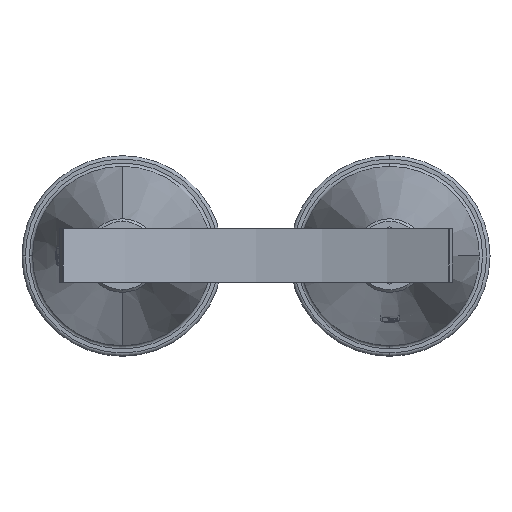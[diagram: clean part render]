
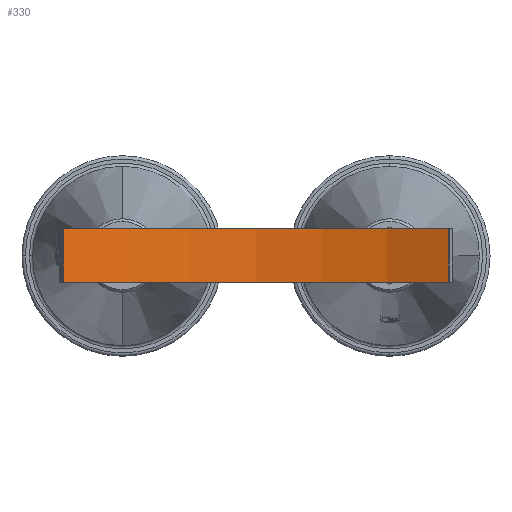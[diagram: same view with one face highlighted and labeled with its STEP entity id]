
A CAD part, top view. The second image highlights one B-rep face of the part: STEP entity #330.
In plain terms, the highlighted cylindrical face has radius 656 mm (diameter 1312 mm), a partial arc.
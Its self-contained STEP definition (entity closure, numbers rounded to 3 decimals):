
#330=ADVANCED_FACE('',(#814),#815,.F.);
#814=FACE_OUTER_BOUND('',#1532,.T.);
#815=CYLINDRICAL_SURFACE('',#1533,656.0);
#1532=EDGE_LOOP('',(#2205,#2206,#2207,#2208));
#1533=AXIS2_PLACEMENT_3D('',#2209,#2210,#2211);
#2205=ORIENTED_EDGE('',*,*,#4036,.T.);
#2206=ORIENTED_EDGE('',*,*,#4026,.F.);
#2207=ORIENTED_EDGE('',*,*,#4037,.T.);
#2208=ORIENTED_EDGE('',*,*,#4033,.T.);
#2209=CARTESIAN_POINT('',(421.579,585.776,844.559));
#2210=DIRECTION('',(0.,-1.0,0.));
#2211=DIRECTION('',(1.0,0.,0.));
#4026=EDGE_CURVE('',#4745,#4740,#4747,.T.);
#4033=EDGE_CURVE('',#4757,#4755,#4758,.T.);
#4036=EDGE_CURVE('',#4755,#4740,#4761,.T.);
#4037=EDGE_CURVE('',#4745,#4757,#4762,.T.);
#4740=VERTEX_POINT('',#5779);
#4745=VERTEX_POINT('',#5786);
#4747=LINE('',#5789,#5790);
#4755=VERTEX_POINT('',#5799);
#4757=VERTEX_POINT('',#5802);
#4758=LINE('',#5803,#5804);
#4761=CIRCLE('',#5808,656.0);
#4762=CIRCLE('',#5809,656.0);
#5779=CARTESIAN_POINT('',(709.598,505.776,255.169));
#5786=CARTESIAN_POINT('',(709.598,585.776,255.169));
#5789=CARTESIAN_POINT('',(709.598,585.776,255.169));
#5790=VECTOR('',#8708,1.0);
#5799=CARTESIAN_POINT('',(133.559,505.776,255.169));
#5802=CARTESIAN_POINT('',(133.559,585.776,255.169));
#5803=CARTESIAN_POINT('',(133.559,585.776,255.169));
#5804=VECTOR('',#8717,1.0);
#5808=AXIS2_PLACEMENT_3D('',#8719,#8720,#8721);
#5809=AXIS2_PLACEMENT_3D('',#8722,#8723,#8724);
#8708=DIRECTION('',(0.,-1.0,0.0));
#8717=DIRECTION('',(0.,-1.0,0.0));
#8719=CARTESIAN_POINT('',(421.579,505.776,844.559));
#8720=DIRECTION('',(0.,-1.0,0.));
#8721=DIRECTION('',(1.0,0.,0.));
#8722=CARTESIAN_POINT('',(421.579,585.776,844.559));
#8723=DIRECTION('',(0.,1.0,0.));
#8724=DIRECTION('',(1.0,0.,0.));
